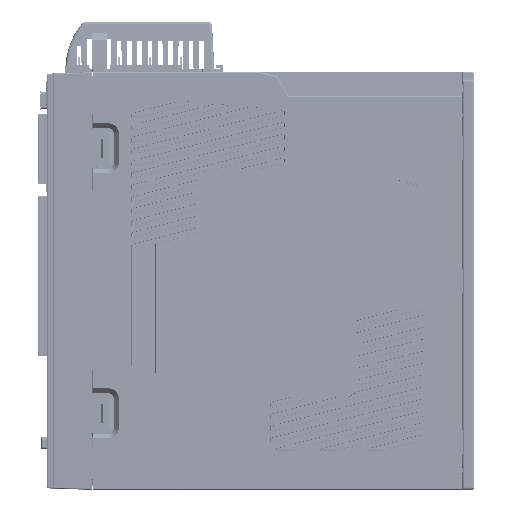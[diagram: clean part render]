
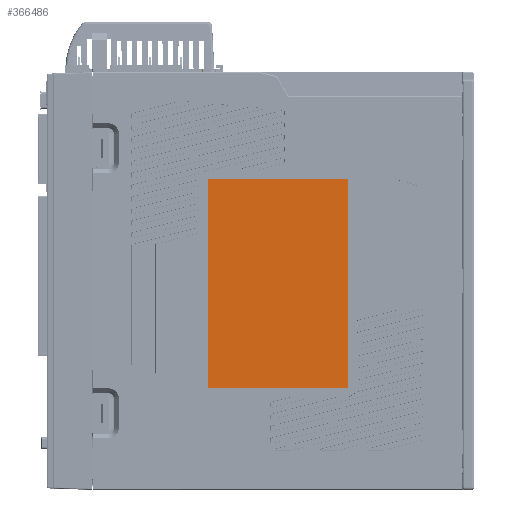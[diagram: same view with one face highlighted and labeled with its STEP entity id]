
A CAD part, top view. The second image highlights one B-rep face of the part: STEP entity #366486.
In plain terms, the highlighted planar face has unit normal (0, 0, 1).
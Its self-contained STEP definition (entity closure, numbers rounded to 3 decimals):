
#342524=DIRECTION('',(1.,0.,0.));
#342525=VECTOR('',#342524,86.418);
#342526=CARTESIAN_POINT('',(-44.28,-62.449,
4.778));
#342527=LINE('',#342526,#342525);
#342536=CARTESIAN_POINT('',(-44.87,-4.22,
4.778));
#342537=CARTESIAN_POINT('',(-44.87,-4.023,
4.778));
#342538=CARTESIAN_POINT('',(-44.723,-3.776,
4.778));
#342539=CARTESIAN_POINT('',(-44.476,-3.629,
4.778));
#342540=CARTESIAN_POINT('',(-44.28,-3.629,
4.778));
#342542=CARTESIAN_POINT('',(42.139,-3.629,
4.778));
#342543=CARTESIAN_POINT('',(42.336,-3.629,
4.778));
#342544=CARTESIAN_POINT('',(42.583,-3.776,
4.778));
#342545=CARTESIAN_POINT('',(42.73,-4.023,
4.778));
#342546=CARTESIAN_POINT('',(42.73,-4.22,
4.778));
#342548=CARTESIAN_POINT('',(42.73,-61.858,
4.778));
#342549=CARTESIAN_POINT('',(42.73,-62.055,
4.778));
#342550=CARTESIAN_POINT('',(42.583,-62.302,
4.778));
#342551=CARTESIAN_POINT('',(42.336,-62.449,
4.778));
#342552=CARTESIAN_POINT('',(42.139,-62.449,
4.778));
#342554=CARTESIAN_POINT('',(-44.28,-62.449,
4.778));
#342555=CARTESIAN_POINT('',(-44.476,-62.449,
4.778));
#342556=CARTESIAN_POINT('',(-44.723,-62.302,
4.778));
#342557=CARTESIAN_POINT('',(-44.87,-62.055,
4.778));
#342558=CARTESIAN_POINT('',(-44.87,-61.858,
4.778));
#342564=DIRECTION('',(0.,-1.,0.));
#342565=VECTOR('',#342564,57.638);
#342566=CARTESIAN_POINT('',(-44.87,-4.22,
4.778));
#342567=LINE('',#342566,#342565);
#342576=DIRECTION('',(-1.,0.,0.));
#342577=VECTOR('',#342576,86.418);
#342578=CARTESIAN_POINT('',(42.139,-3.629,
4.778));
#342579=LINE('',#342578,#342577);
#342592=DIRECTION('',(0.,1.,0.));
#342593=VECTOR('',#342592,57.638);
#342594=CARTESIAN_POINT('',(42.73,-61.858,
4.778));
#342595=LINE('',#342594,#342593);
#345760=CARTESIAN_POINT('',(-44.28,-62.449,
4.778));
#345761=CARTESIAN_POINT('',(42.139,-62.449,
4.778));
#345762=VERTEX_POINT('',#345760);
#345763=VERTEX_POINT('',#345761);
#345764=CARTESIAN_POINT('',(-44.87,-4.22,
4.778));
#345765=CARTESIAN_POINT('',(-44.87,-61.858,
4.778));
#345766=VERTEX_POINT('',#345764);
#345767=VERTEX_POINT('',#345765);
#345768=VERTEX_POINT('',#342540);
#345769=CARTESIAN_POINT('',(42.139,-3.629,
4.778));
#345770=VERTEX_POINT('',#345769);
#345771=VERTEX_POINT('',#342546);
#345772=CARTESIAN_POINT('',(42.73,-61.858,
4.778));
#345773=VERTEX_POINT('',#345772);
#366464=CARTESIAN_POINT('',(-55.821,3.724,
4.778));
#366465=DIRECTION('',(0.,0.,1.));
#366466=DIRECTION('',(0.,-1.,0.));
#366467=AXIS2_PLACEMENT_3D('',#366464,#366465,#366466);
#366468=PLANE('',#366467);
#366470=ORIENTED_EDGE('',*,*,#366469,.F.);
#366472=ORIENTED_EDGE('',*,*,#366471,.T.);
#366474=ORIENTED_EDGE('',*,*,#366473,.F.);
#366476=ORIENTED_EDGE('',*,*,#366475,.T.);
#366478=ORIENTED_EDGE('',*,*,#366477,.F.);
#366480=ORIENTED_EDGE('',*,*,#366479,.T.);
#366481=ORIENTED_EDGE('',*,*,#366447,.F.);
#366483=ORIENTED_EDGE('',*,*,#366482,.T.);
#366484=EDGE_LOOP('',(#366470,#366472,#366474,#366476,#366478,#366480,#366481,
#366483));
#366485=FACE_OUTER_BOUND('',#366484,.F.);
#342541=B_SPLINE_CURVE_WITH_KNOTS('',3,(#342536,#342537,#342538,#342539,
#342540),.UNSPECIFIED.,.F.,.F.,(4,1,4),(0.,0.5,1.),.UNSPECIFIED.);
#342547=B_SPLINE_CURVE_WITH_KNOTS('',3,(#342542,#342543,#342544,#342545,
#342546),.UNSPECIFIED.,.F.,.F.,(4,1,4),(0.,0.5,1.),.UNSPECIFIED.);
#342553=B_SPLINE_CURVE_WITH_KNOTS('',3,(#342548,#342549,#342550,#342551,
#342552),.UNSPECIFIED.,.F.,.F.,(4,1,4),(0.,0.5,1.),.UNSPECIFIED.);
#342559=B_SPLINE_CURVE_WITH_KNOTS('',3,(#342554,#342555,#342556,#342557,
#342558),.UNSPECIFIED.,.F.,.F.,(4,1,4),(0.,0.5,1.),.UNSPECIFIED.);
#366447=EDGE_CURVE('',#345762,#345763,#342527,.T.);
#366469=EDGE_CURVE('',#345766,#345767,#342567,.T.);
#366471=EDGE_CURVE('',#345766,#345768,#342541,.T.);
#366473=EDGE_CURVE('',#345770,#345768,#342579,.T.);
#366475=EDGE_CURVE('',#345770,#345771,#342547,.T.);
#366477=EDGE_CURVE('',#345773,#345771,#342595,.T.);
#366479=EDGE_CURVE('',#345773,#345763,#342553,.T.);
#366482=EDGE_CURVE('',#345762,#345767,#342559,.T.);
#366486=ADVANCED_FACE('',(#366485),#366468,.T.);
